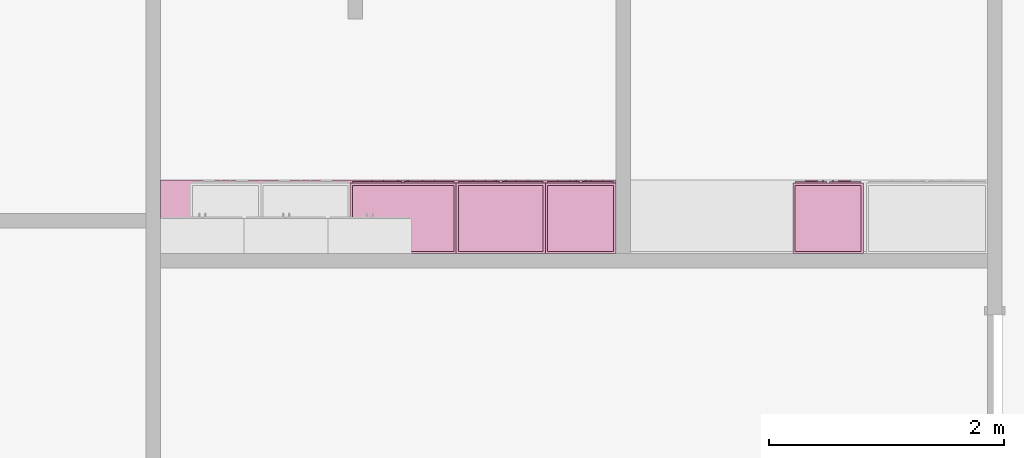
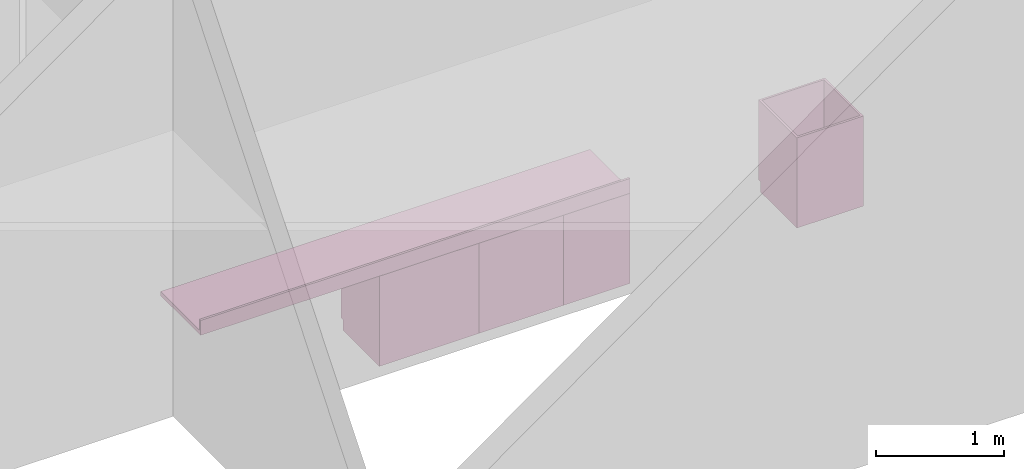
# One storey, part 40 of 47: 5 furnishings, 1 opening.
"""IFC2X3 building model written with IfcOpenShell, lengths in metres."""

from ifc_helpers import new_model, entity, si_unit, converted_unit, frame, frame_2d, origin, place, context, project, spatial, polyline, circle_curve, parameter, trimmed, segment, composite_curve, outline, extrude, face_set, surface_model, source, transform, mapped, type_object, type_shapes, element, save


model = new_model("IFC2X3")

# Units and contexts
model_context = context("Model", 3, precision=1e-09, world=origin())
plan_context = context("Plan", 3, precision=1e-09, world=origin())
ifc_project = project(units=[si_unit("LENGTHUNIT", "METRE"), si_unit("AREAUNIT", "SQUARE_METRE"), si_unit("VOLUMEUNIT", "CUBIC_METRE"), converted_unit("PLANEANGLEUNIT", "DEGREE", entity("IfcRatioMeasure", 0.01745329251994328), si_unit("PLANEANGLEUNIT", "RADIAN"), dimensions=[0, 0, 0, 0, 0, 0, 0]), si_unit("TIMEUNIT", "SECOND")], contexts=[model_context, plan_context])

# Site, building, storey, space
site_placement = place(None, origin())
site = spatial("IfcSite", under=ifc_project, at=site_placement, Name="Default", CompositionType="ELEMENT")
building_placement = place(site_placement, origin())
building = spatial("IfcBuilding", under=site, at=building_placement, CompositionType="ELEMENT")
storey_placement = place(building_placement, frame((0.0, 0.0, 4.570000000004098)))
storey = spatial("IfcBuildingStorey", under=building, at=storey_placement, Name="Second Floor", CompositionType="ELEMENT", Elevation=4.570000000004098)
space_1_placement = place(storey_placement, origin())
space_1 = spatial("IfcSpace", under=storey, at=space_1_placement, Name="2C10", CompositionType="ELEMENT", InteriorOrExteriorSpace="INTERNAL")

# Furnishing
furniture_type_1 = type_object("IfcFurnitureType", Name="600mm", AssemblyPlace="NOTDEFINED")
shared_shape_1 = source(origin(), model_context, "Body", "SurfaceModel", [
    surface_model("IfcFaceBasedSurfaceModel", [(0.5809499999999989, 0.0444500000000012, 0.86000000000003), (0.5809499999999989, 0.0444500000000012, 0.09999999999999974), (0.01905000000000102, 0.0444500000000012, 0.09999999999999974), (0.01905000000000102, 0.0444500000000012, 0.86000000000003), (0.5999999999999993, 0.02540000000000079, 0.8600000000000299), (0.0, 0.02540000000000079, 0.8600000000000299), (0.5999999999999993, 0.02540000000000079, 0.09999999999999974), (0.0, 0.02540000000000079, 0.0999999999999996), (0.01905000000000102, 0.6063499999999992, 0.86000000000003), (0.01905000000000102, 0.6063499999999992, 0.09999999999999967), (0.01905000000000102, 0.06040000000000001, 0.09999999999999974), (0.0, 0.6253999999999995, 0.8600000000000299), (0.0, 0.6254000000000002, 0.0), (0.0, 0.06040000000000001, 0.0), (0.0, 0.06040000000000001, 0.09999999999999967), (0.5809499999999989, 0.6063499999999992, 0.86000000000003), (0.5809499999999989, 0.6063499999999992, 0.09999999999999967), (0.5999999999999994, 0.6253999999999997, 0.8600000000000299), (0.5999999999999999, 0.6253999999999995, 0.0), (0.5809499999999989, 0.06040000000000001, 0.09999999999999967), (0.5999999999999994, 0.06040000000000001, 0.09999999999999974), (0.5999999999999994, 0.06040000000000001, 0.0), (0.2103250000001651, 0.0, 0.8155500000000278), (0.2103250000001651, 0.0, 0.8028500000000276), (0.1087250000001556, 0.0, 0.8028500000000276), (0.1087250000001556, 0.0, 0.8155500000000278), (0.4912750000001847, 0.0, 0.8155500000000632), (0.4912750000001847, 0.0, 0.8028500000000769), (0.3896750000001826, 0.0, 0.8028500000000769), (0.3896750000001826, 0.0, 0.8155500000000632), (0.2650750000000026, 0.0, 0.6822000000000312), (0.2650750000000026, 0.0, 0.5806000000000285), (0.2523750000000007, 0.0, 0.5806000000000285), (0.2523750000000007, 0.0, 0.6822000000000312), (0.3476249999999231, 0.0, 0.6822000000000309), (0.3476249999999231, 0.0, 0.5806000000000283), (0.3349249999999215, 0.0, 0.5806000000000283), (0.3349249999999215, 0.0, 0.6822000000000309), (0.2103250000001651, 0.0127000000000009, 0.8155500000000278), (0.2103250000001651, 0.0127000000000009, 0.8028500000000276), (0.1087250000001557, 0.01270000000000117, 0.8028500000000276), (0.1087250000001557, 0.01270000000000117, 0.8155500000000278), (0.4912750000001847, 0.01269999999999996, 0.8155500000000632), (0.4912750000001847, 0.01269999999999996, 0.8028500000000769), (0.3896750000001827, 0.01270000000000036, 0.8028500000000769), (0.3896750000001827, 0.01270000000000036, 0.8155500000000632), (0.2650750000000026, 0.01270000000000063, 0.6822000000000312), (0.2650750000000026, 0.01270000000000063, 0.5806000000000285), (0.2523750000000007, 0.01270000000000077, 0.5806000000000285), (0.2523750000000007, 0.01270000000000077, 0.6822000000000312), (0.3476249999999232, 0.0127000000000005, 0.6822000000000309), (0.3476249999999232, 0.0127000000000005, 0.5806000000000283), (0.3349249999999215, 0.0127000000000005, 0.5806000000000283), (0.3349249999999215, 0.0127000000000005, 0.6822000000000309), (0.2904749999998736, 0.01270000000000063, 0.8409500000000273), (0.2904749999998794, 0.01270000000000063, 0.7393500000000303), (0.01905000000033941, 0.01270000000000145, 0.7393500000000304), (0.01905000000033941, 0.01270000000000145, 0.8409500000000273), (0.5809500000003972, 0.01269999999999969, 0.8409500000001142), (0.5809500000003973, 0.01269999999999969, 0.7393500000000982), (0.3095249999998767, 0.0127000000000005, 0.7393500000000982), (0.309524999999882, 0.0127000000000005, 0.8409500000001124), (0.2904749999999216, 0.01270000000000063, 0.7203000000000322), (0.290474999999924, 0.01270000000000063, 0.1190499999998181), (0.01905000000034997, 0.01270000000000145, 0.1190499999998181), (0.01905000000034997, 0.01270000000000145, 0.7203000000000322), (0.5809500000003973, 0.01269999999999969, 0.7203000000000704), (0.5809500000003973, 0.01269999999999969, 0.1190499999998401), (0.3095249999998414, 0.0127000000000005, 0.1190499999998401), (0.3095249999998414, 0.0127000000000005, 0.7203000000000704), (0.2904749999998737, 0.02540000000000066, 0.8409500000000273), (0.2904749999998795, 0.02540000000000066, 0.7393500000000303), (0.01905000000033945, 0.02540000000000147, 0.7393500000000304), (0.01905000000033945, 0.02540000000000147, 0.8409500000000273), (0.5809500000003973, 0.02539999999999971, 0.8409500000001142), (0.5809500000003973, 0.02539999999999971, 0.7393500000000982), (0.3095249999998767, 0.02540000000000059, 0.7393500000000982), (0.309524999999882, 0.02540000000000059, 0.8409500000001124), (0.2904749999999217, 0.02540000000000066, 0.7203000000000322), (0.290474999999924, 0.02540000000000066, 0.1190499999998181), (0.01905000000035, 0.02540000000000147, 0.1190499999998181), (0.01905000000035, 0.02540000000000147, 0.7203000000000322), (0.5809500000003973, 0.02539999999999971, 0.7203000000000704), (0.5809500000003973, 0.02539999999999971, 0.1190499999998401), (0.3095249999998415, 0.02540000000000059, 0.1190499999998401), (0.3095249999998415, 0.02540000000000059, 0.7203000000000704), (0.580949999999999, 0.6063499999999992, 0.1190499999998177), (0.580949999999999, 0.04445000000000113, 0.1190499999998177), (0.01905000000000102, 0.04445000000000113, 0.1190499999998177), (0.01905000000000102, 0.6063499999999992, 0.1190499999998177), (0.580949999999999, 0.6063499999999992, 0.09999999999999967), (0.580949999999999, 0.04445000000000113, 0.09999999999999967), (0.01905000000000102, 0.04445000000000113, 0.09999999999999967), (0.01905000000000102, 0.6063499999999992, 0.09999999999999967)], [face_set([[[0, 1, 2, 3]], [[0, 4, 5, 3]], [[4, 6, 7, 5]], [[2, 1, 6, 7]], [[3, 8, 9, 10, 2]], [[5, 11, 8, 3]], [[7, 5, 11, 12, 13, 14]], [[2, 7, 14, 10]], [[8, 15, 16, 9]], [[11, 17, 15, 8]], [[12, 11, 17, 18]], [[1, 19, 16, 15, 0]], [[0, 15, 17, 4]], [[4, 6, 20, 21, 18, 17]], [[6, 1, 19, 20]], [[10, 9, 16, 19]], [[18, 21, 13, 12]], [[13, 14, 10, 19, 20, 21]]]), face_set([[[22, 23, 24, 25]], [[26, 27, 28, 29]], [[30, 31, 32, 33]], [[34, 35, 36, 37]], [[38, 39, 40, 41]], [[42, 43, 44, 45]], [[46, 47, 48, 49]], [[50, 51, 52, 53]], [[25, 41, 38, 22]], [[24, 40, 41, 25]], [[23, 24, 40, 39]], [[22, 23, 39, 38]], [[29, 45, 42, 26]], [[28, 44, 45, 29]], [[27, 28, 44, 43]], [[26, 27, 43, 42]], [[33, 49, 46, 30]], [[32, 48, 49, 33]], [[31, 32, 48, 47]], [[30, 31, 47, 46]], [[37, 53, 50, 34]], [[36, 52, 53, 37]], [[35, 36, 52, 51]], [[34, 35, 51, 50]]]), face_set([[[54, 55, 56, 57]], [[58, 59, 60, 61]], [[62, 63, 64, 65]], [[66, 67, 68, 69]], [[70, 71, 72, 73]], [[74, 75, 76, 77]], [[78, 79, 80, 81]], [[82, 83, 84, 85]], [[57, 73, 70, 54]], [[56, 57, 73, 72]], [[55, 56, 72, 71]], [[54, 55, 71, 70]], [[61, 77, 74, 58]], [[60, 76, 77, 61]], [[59, 60, 76, 75]], [[58, 59, 75, 74]], [[65, 81, 78, 62]], [[64, 65, 81, 80]], [[63, 64, 80, 79]], [[62, 63, 79, 78]], [[69, 85, 82, 66]], [[68, 84, 85, 69]], [[67, 68, 84, 83]], [[66, 67, 83, 82]]]), face_set([[[86, 87, 88, 89]], [[90, 91, 92, 93]], [[89, 86, 90, 93]], [[88, 89, 93, 92]], [[87, 91, 92, 88]], [[86, 87, 91, 90]]])]),
])
type_shapes(furniture_type_1, [shared_shape_1])
furnishing_1_placement = place(space_1_placement, frame((-34.5000000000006, 42.08383871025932, 0.0), z_axis=(0.0, 0.0, 1.0), x_axis=(-1.0, 0.0, 0.0)))
element("IfcFurnishingElement", 1, at=furnishing_1_placement, inside=space_1, type_object=furniture_type_1, Name="M_Base Cabinet-Double Door & 2 Drawer:600mm:600mm", ObjectType="600mm", context=model_context, shape_type="MappedRepresentation", body=[
    mapped(shared_shape_1, transform((0.0, 0.0, 0.0), scale=1.0)),
])

# Space
space_2_placement = place(storey_placement, origin())
space_2 = spatial("IfcSpace", under=storey, at=space_2_placement, Name="2C12", CompositionType="ELEMENT", InteriorOrExteriorSpace="INTERNAL")

# Furnishings
furnishing_2_placement = place(space_2_placement, frame((-36.6040000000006, 42.08383871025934, 0.0), z_axis=(0.0, 0.0, 1.0), x_axis=(-1.0, 0.0, 0.0)))
element("IfcFurnishingElement", 2, at=furnishing_2_placement, inside=space_2, type_object=furniture_type_1, Name="M_Base Cabinet-Double Door & 2 Drawer:600mm:600mm", ObjectType="600mm", context=model_context, shape_type="MappedRepresentation", body=[
    mapped(shared_shape_1, transform((0.0, 0.0, 0.0), scale=1.0)),
])
furniture_type_2 = type_object("IfcFurnitureType", Name="900mm", AssemblyPlace="NOTDEFINED")
shared_shape_2 = source(origin(), model_context, "Body", "SurfaceModel", [
    surface_model("IfcFaceBasedSurfaceModel", [(0.8809499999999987, 0.04445000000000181, 0.86000000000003), (0.8809499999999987, 0.04445000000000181, 0.09999999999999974), (0.01905000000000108, 0.04445000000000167, 0.09999999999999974), (0.01905000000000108, 0.04445000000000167, 0.86000000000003), (0.8999999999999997, 0.02540000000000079, 0.8600000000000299), (0.0, 0.02540000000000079, 0.8600000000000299), (0.8999999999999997, 0.02540000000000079, 0.09999999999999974), (0.0, 0.02540000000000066, 0.0999999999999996), (0.01905000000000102, 0.6063499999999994, 0.86000000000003), (0.01905000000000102, 0.6063499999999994, 0.09999999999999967), (0.01905000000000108, 0.06040000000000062, 0.09999999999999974), (0.0, 0.6254000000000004, 0.8600000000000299), (0.0, 0.6254000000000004, 0.0), (0.0, 0.06040000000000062, 0.0), (0.0, 0.06040000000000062, 0.09999999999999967), (0.8809499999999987, 0.6063499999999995, 0.86000000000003), (0.8809499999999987, 0.6063499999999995, 0.09999999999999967), (0.8999999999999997, 0.6254000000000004, 0.8600000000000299), (0.8999999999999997, 0.6254000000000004, 0.0), (0.8809499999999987, 0.06040000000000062, 0.09999999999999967), (0.8999999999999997, 0.06040000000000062, 0.09999999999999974), (0.8999999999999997, 0.06040000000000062, 0.0), (0.2853250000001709, 0.0, 0.8155500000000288), (0.2853250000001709, 0.0, 0.8028500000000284), (0.1837250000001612, 0.0, 0.8028500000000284), (0.1837250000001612, 0.0, 0.8155500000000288), (0.716275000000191, 0.0, 0.8155500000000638), (0.716275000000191, 0.0, 0.8028500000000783), (0.6146750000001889, 0.0, 0.8028500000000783), (0.6146750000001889, 0.0, 0.8155500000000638), (0.4150750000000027, 0.0, 0.6822000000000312), (0.4150750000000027, 0.0, 0.5806000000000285), (0.4023750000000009, 0.0, 0.5806000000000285), (0.4023750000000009, 0.0, 0.6822000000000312), (0.4976249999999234, 0.0, 0.6822000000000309), (0.4976249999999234, 0.0, 0.5806000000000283), (0.4849249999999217, 0.0, 0.5806000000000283), (0.4849249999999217, 0.0, 0.6822000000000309), (0.285325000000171, 0.01270000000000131, 0.8155500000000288), (0.285325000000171, 0.01270000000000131, 0.8028500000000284), (0.1837250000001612, 0.01270000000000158, 0.8028500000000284), (0.1837250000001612, 0.01270000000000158, 0.8155500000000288), (0.7162750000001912, 0.01269999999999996, 0.8155500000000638), (0.7162750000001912, 0.01269999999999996, 0.8028500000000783), (0.6146750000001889, 0.01270000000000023, 0.8028500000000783), (0.6146750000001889, 0.01270000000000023, 0.8155500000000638), (0.4150750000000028, 0.0127000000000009, 0.6822000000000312), (0.4150750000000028, 0.0127000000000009, 0.5806000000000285), (0.4023750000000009, 0.0127000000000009, 0.5806000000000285), (0.4023750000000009, 0.0127000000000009, 0.6822000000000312), (0.4976249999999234, 0.01270000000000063, 0.6822000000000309), (0.4976249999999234, 0.01270000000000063, 0.5806000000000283), (0.4849249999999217, 0.01270000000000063, 0.5806000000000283), (0.4849249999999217, 0.01270000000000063, 0.6822000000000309), (0.4404749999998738, 0.01270000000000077, 0.8409500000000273), (0.4404749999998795, 0.01270000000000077, 0.7393500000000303), (0.01905000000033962, 0.01270000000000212, 0.7393500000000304), (0.01905000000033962, 0.01270000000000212, 0.8409500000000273), (0.8809500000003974, 0.01269999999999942, 0.8409500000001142), (0.8809500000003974, 0.01269999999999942, 0.7393500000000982), (0.4595249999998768, 0.01270000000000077, 0.7393500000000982), (0.4595249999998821, 0.01270000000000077, 0.8409500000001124), (0.4404749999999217, 0.01270000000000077, 0.7203000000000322), (0.4404749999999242, 0.01270000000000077, 0.1190499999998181), (0.01905000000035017, 0.01270000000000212, 0.1190499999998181), (0.01905000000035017, 0.01270000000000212, 0.7203000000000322), (0.8809500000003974, 0.01269999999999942, 0.7203000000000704), (0.8809500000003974, 0.01269999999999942, 0.1190499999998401), (0.4595249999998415, 0.01270000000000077, 0.1190499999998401), (0.4595249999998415, 0.01270000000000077, 0.7203000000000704), (0.4404749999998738, 0.02540000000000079, 0.8409500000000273), (0.4404749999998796, 0.02540000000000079, 0.7393500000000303), (0.01905000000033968, 0.02540000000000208, 0.7393500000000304), (0.01905000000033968, 0.02540000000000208, 0.8409500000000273), (0.8809500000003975, 0.02539999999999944, 0.8409500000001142), (0.8809500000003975, 0.02539999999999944, 0.7393500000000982), (0.4595249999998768, 0.02540000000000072, 0.7393500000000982), (0.4595249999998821, 0.02540000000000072, 0.8409500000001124), (0.4404749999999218, 0.02540000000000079, 0.7203000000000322), (0.4404749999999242, 0.02540000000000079, 0.1190499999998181), (0.01905000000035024, 0.02540000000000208, 0.1190499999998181), (0.01905000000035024, 0.02540000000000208, 0.7203000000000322), (0.8809500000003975, 0.02539999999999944, 0.7203000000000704), (0.8809500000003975, 0.02539999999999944, 0.1190499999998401), (0.4595249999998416, 0.02540000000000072, 0.1190499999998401), (0.4595249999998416, 0.02540000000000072, 0.7203000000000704), (0.8809499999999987, 0.6063499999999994, 0.1190499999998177), (0.8809499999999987, 0.04445000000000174, 0.1190499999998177), (0.01905000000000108, 0.04445000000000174, 0.1190499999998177), (0.01905000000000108, 0.6063499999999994, 0.1190499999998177), (0.8809499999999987, 0.6063499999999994, 0.09999999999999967), (0.8809499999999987, 0.04445000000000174, 0.09999999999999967), (0.01905000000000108, 0.04445000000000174, 0.09999999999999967), (0.01905000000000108, 0.6063499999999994, 0.09999999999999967)], [face_set([[[0, 1, 2, 3]], [[0, 4, 5, 3]], [[4, 6, 7, 5]], [[2, 1, 6, 7]], [[3, 8, 9, 10, 2]], [[5, 11, 8, 3]], [[7, 5, 11, 12, 13, 14]], [[2, 7, 14, 10]], [[8, 15, 16, 9]], [[11, 17, 15, 8]], [[12, 11, 17, 18]], [[1, 19, 16, 15, 0]], [[0, 15, 17, 4]], [[4, 6, 20, 21, 18, 17]], [[6, 1, 19, 20]], [[10, 9, 16, 19]], [[18, 21, 13, 12]], [[13, 14, 10, 19, 20, 21]]]), face_set([[[22, 23, 24, 25]], [[26, 27, 28, 29]], [[30, 31, 32, 33]], [[34, 35, 36, 37]], [[38, 39, 40, 41]], [[42, 43, 44, 45]], [[46, 47, 48, 49]], [[50, 51, 52, 53]], [[25, 41, 38, 22]], [[24, 40, 41, 25]], [[23, 24, 40, 39]], [[22, 23, 39, 38]], [[29, 45, 42, 26]], [[28, 44, 45, 29]], [[27, 28, 44, 43]], [[26, 27, 43, 42]], [[33, 49, 46, 30]], [[32, 48, 49, 33]], [[31, 32, 48, 47]], [[30, 31, 47, 46]], [[37, 53, 50, 34]], [[36, 52, 53, 37]], [[35, 36, 52, 51]], [[34, 35, 51, 50]]]), face_set([[[54, 55, 56, 57]], [[58, 59, 60, 61]], [[62, 63, 64, 65]], [[66, 67, 68, 69]], [[70, 71, 72, 73]], [[74, 75, 76, 77]], [[78, 79, 80, 81]], [[82, 83, 84, 85]], [[57, 73, 70, 54]], [[56, 57, 73, 72]], [[55, 56, 72, 71]], [[54, 55, 71, 70]], [[61, 77, 74, 58]], [[60, 76, 77, 61]], [[59, 60, 76, 75]], [[58, 59, 75, 74]], [[65, 81, 78, 62]], [[64, 65, 81, 80]], [[63, 64, 80, 79]], [[62, 63, 79, 78]], [[69, 85, 82, 66]], [[68, 84, 85, 69]], [[67, 68, 84, 83]], [[66, 67, 83, 82]]]), face_set([[[86, 87, 88, 89]], [[90, 91, 92, 93]], [[89, 86, 90, 93]], [[88, 89, 93, 92]], [[87, 91, 92, 88]], [[86, 87, 91, 90]]])]),
])
type_shapes(furniture_type_2, [shared_shape_2])
furnishing_3_placement = place(space_2_placement, frame((-37.9640000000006, 42.08383871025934, 0.0), z_axis=(0.0, 0.0, 1.0), x_axis=(-1.0, 0.0, 0.0)))
element("IfcFurnishingElement", 3, at=furnishing_3_placement, inside=space_2, type_object=furniture_type_2, Name="M_Base Cabinet-Double Door & 2 Drawer:900mm:900mm", ObjectType="900mm", context=model_context, shape_type="MappedRepresentation", body=[
    mapped(shared_shape_2, transform((0.0, 0.0, 0.0), scale=1.0)),
])
furniture_type_3 = type_object("IfcFurnitureType", Name="760mm", AssemblyPlace="NOTDEFINED")
shared_shape_3 = source(origin(), model_context, "Body", "SurfaceModel", [
    surface_model("IfcFaceBasedSurfaceModel", [(0.7409499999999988, 0.04445000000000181, 0.86000000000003), (0.7409499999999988, 0.04445000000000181, 0.09999999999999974), (0.01905000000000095, 0.04445000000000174, 0.09999999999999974), (0.01905000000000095, 0.04445000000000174, 0.86000000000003), (0.7599999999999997, 0.02540000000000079, 0.8600000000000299), (0.0, 0.02540000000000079, 0.8600000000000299), (0.7599999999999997, 0.02540000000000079, 0.09999999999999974), (0.0, 0.02540000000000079, 0.0999999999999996), (0.01905000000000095, 0.6063499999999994, 0.86000000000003), (0.01905000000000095, 0.6063499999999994, 0.09999999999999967), (0.01905000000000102, 0.06040000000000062, 0.09999999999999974), (0.0, 0.6254000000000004, 0.8600000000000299), (0.0, 0.6254000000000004, 0.0), (0.0, 0.06040000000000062, 0.0), (0.0, 0.06040000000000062, 0.09999999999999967), (0.7409499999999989, 0.6063499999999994, 0.86000000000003), (0.7409499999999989, 0.6063499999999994, 0.09999999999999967), (0.7599999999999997, 0.6254000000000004, 0.8600000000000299), (0.7599999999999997, 0.6254000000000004, 0.0), (0.7409499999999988, 0.06040000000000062, 0.09999999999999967), (0.7599999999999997, 0.06040000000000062, 0.09999999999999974), (0.7599999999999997, 0.06040000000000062, 0.0), (0.2503250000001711, 0.0, 0.8155500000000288), (0.2503250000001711, 0.0, 0.8028500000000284), (0.1487250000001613, 0.0, 0.8028500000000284), (0.1487250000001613, 0.0, 0.8155500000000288), (0.6112750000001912, 0.0, 0.8155500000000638), (0.6112750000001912, 0.0, 0.8028500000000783), (0.509675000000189, 0.0, 0.8028500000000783), (0.509675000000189, 0.0, 0.8155500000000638), (0.3450750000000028, 0.0, 0.6822000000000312), (0.3450750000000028, 0.0, 0.5806000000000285), (0.3323750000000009, 0.0, 0.5806000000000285), (0.3323750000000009, 0.0, 0.6822000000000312), (0.4276249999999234, 0.0, 0.6822000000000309), (0.4276249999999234, 0.0, 0.5806000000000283), (0.4149249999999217, 0.0, 0.5806000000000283), (0.4149249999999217, 0.0, 0.6822000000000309), (0.2503250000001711, 0.01270000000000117, 0.8155500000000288), (0.2503250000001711, 0.01270000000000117, 0.8028500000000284), (0.1487250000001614, 0.01270000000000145, 0.8028500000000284), (0.1487250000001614, 0.01270000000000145, 0.8155500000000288), (0.6112750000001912, 0.01269999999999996, 0.8155500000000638), (0.6112750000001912, 0.01269999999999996, 0.8028500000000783), (0.5096750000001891, 0.01270000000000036, 0.8028500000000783), (0.5096750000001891, 0.01270000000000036, 0.8155500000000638), (0.3450750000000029, 0.0127000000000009, 0.6822000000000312), (0.3450750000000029, 0.0127000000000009, 0.5806000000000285), (0.3323750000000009, 0.0127000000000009, 0.5806000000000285), (0.3323750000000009, 0.0127000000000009, 0.6822000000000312), (0.4276249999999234, 0.01270000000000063, 0.6822000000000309), (0.4276249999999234, 0.01270000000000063, 0.5806000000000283), (0.4149249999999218, 0.01270000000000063, 0.5806000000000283), (0.4149249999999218, 0.01270000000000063, 0.6822000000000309), (0.3704749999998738, 0.01270000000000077, 0.8409500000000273), (0.3704749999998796, 0.01270000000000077, 0.7393500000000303), (0.01905000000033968, 0.01270000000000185, 0.7393500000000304), (0.01905000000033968, 0.01270000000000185, 0.8409500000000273), (0.7409500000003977, 0.01269999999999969, 0.8409500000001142), (0.7409500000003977, 0.01269999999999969, 0.7393500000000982), (0.3895249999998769, 0.01270000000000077, 0.7393500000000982), (0.3895249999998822, 0.01270000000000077, 0.8409500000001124), (0.3704749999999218, 0.01270000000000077, 0.7203000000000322), (0.3704749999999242, 0.01270000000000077, 0.1190499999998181), (0.01905000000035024, 0.01270000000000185, 0.1190499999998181), (0.01905000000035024, 0.01270000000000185, 0.7203000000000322), (0.7409500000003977, 0.01269999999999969, 0.7203000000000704), (0.7409500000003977, 0.01269999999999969, 0.1190499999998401), (0.3895249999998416, 0.01270000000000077, 0.1190499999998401), (0.3895249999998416, 0.01270000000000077, 0.7203000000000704), (0.3704749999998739, 0.02540000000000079, 0.8409500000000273), (0.3704749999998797, 0.02540000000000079, 0.7393500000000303), (0.01905000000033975, 0.02540000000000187, 0.7393500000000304), (0.01905000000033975, 0.02540000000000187, 0.8409500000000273), (0.7409500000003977, 0.02539999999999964, 0.8409500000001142), (0.7409500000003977, 0.02539999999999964, 0.7393500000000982), (0.3895249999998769, 0.02540000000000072, 0.7393500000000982), (0.3895249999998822, 0.02540000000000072, 0.8409500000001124), (0.3704749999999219, 0.02540000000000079, 0.7203000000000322), (0.3704749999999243, 0.02540000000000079, 0.1190499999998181), (0.01905000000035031, 0.02540000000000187, 0.1190499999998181), (0.01905000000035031, 0.02540000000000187, 0.7203000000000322), (0.7409500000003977, 0.02539999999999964, 0.7203000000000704), (0.7409500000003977, 0.02539999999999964, 0.1190499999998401), (0.3895249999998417, 0.02540000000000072, 0.1190499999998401), (0.3895249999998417, 0.02540000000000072, 0.7203000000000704), (0.7409499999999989, 0.6063499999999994, 0.1190499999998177), (0.7409499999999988, 0.04445000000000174, 0.1190499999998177), (0.01905000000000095, 0.04445000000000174, 0.1190499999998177), (0.01905000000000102, 0.6063499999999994, 0.1190499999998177), (0.7409499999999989, 0.6063499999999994, 0.09999999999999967), (0.7409499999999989, 0.04445000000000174, 0.09999999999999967), (0.01905000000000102, 0.04445000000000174, 0.09999999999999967), (0.01905000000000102, 0.6063499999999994, 0.09999999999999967)], [face_set([[[0, 1, 2, 3]], [[0, 4, 5, 3]], [[4, 6, 7, 5]], [[2, 1, 6, 7]], [[3, 8, 9, 10, 2]], [[5, 11, 8, 3]], [[7, 5, 11, 12, 13, 14]], [[2, 7, 14, 10]], [[8, 15, 16, 9]], [[11, 17, 15, 8]], [[12, 11, 17, 18]], [[1, 19, 16, 15, 0]], [[0, 15, 17, 4]], [[4, 6, 20, 21, 18, 17]], [[6, 1, 19, 20]], [[10, 9, 16, 19]], [[18, 21, 13, 12]], [[13, 14, 10, 19, 20, 21]]]), face_set([[[22, 23, 24, 25]], [[26, 27, 28, 29]], [[30, 31, 32, 33]], [[34, 35, 36, 37]], [[38, 39, 40, 41]], [[42, 43, 44, 45]], [[46, 47, 48, 49]], [[50, 51, 52, 53]], [[25, 41, 38, 22]], [[24, 40, 41, 25]], [[23, 24, 40, 39]], [[22, 23, 39, 38]], [[29, 45, 42, 26]], [[28, 44, 45, 29]], [[27, 28, 44, 43]], [[26, 27, 43, 42]], [[33, 49, 46, 30]], [[32, 48, 49, 33]], [[31, 32, 48, 47]], [[30, 31, 47, 46]], [[37, 53, 50, 34]], [[36, 52, 53, 37]], [[35, 36, 52, 51]], [[34, 35, 51, 50]]]), face_set([[[54, 55, 56, 57]], [[58, 59, 60, 61]], [[62, 63, 64, 65]], [[66, 67, 68, 69]], [[70, 71, 72, 73]], [[74, 75, 76, 77]], [[78, 79, 80, 81]], [[82, 83, 84, 85]], [[57, 73, 70, 54]], [[56, 57, 73, 72]], [[55, 56, 72, 71]], [[54, 55, 71, 70]], [[61, 77, 74, 58]], [[60, 76, 77, 61]], [[59, 60, 76, 75]], [[58, 59, 75, 74]], [[65, 81, 78, 62]], [[64, 65, 81, 80]], [[63, 64, 80, 79]], [[62, 63, 79, 78]], [[69, 85, 82, 66]], [[68, 84, 85, 69]], [[67, 68, 84, 83]], [[66, 67, 83, 82]]]), face_set([[[86, 87, 88, 89]], [[90, 91, 92, 93]], [[89, 86, 90, 93]], [[88, 89, 93, 92]], [[87, 91, 92, 88]], [[86, 87, 91, 90]]])]),
])
type_shapes(furniture_type_3, [shared_shape_3])
furnishing_4_placement = place(space_2_placement, frame((-37.2040000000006, 42.08383871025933, 0.0), z_axis=(0.0, 0.0, 1.0), x_axis=(-1.0, 0.0, 0.0)))
element("IfcFurnishingElement", 4, at=furnishing_4_placement, inside=space_2, type_object=furniture_type_3, Name="M_Base Cabinet-Double Door & 2 Drawer:760mm:760mm", ObjectType="760mm", context=model_context, shape_type="MappedRepresentation", body=[
    mapped(shared_shape_3, transform((0.0, 0.0, 0.0), scale=1.0)),
])

# Furnishing, opening
furniture_type_4 = type_object("IfcFurnitureType", Name="600mm Depth", AssemblyPlace="NOTDEFINED")
shared_shape_4 = source(origin(), model_context, "Body", "SweptSolid", [
    extrude(outline(polyline([(-0.0605333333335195, -0.2146833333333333), (0.08106666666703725, -0.2146833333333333), (0.08106666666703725, -0.1956333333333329), (-0.02053333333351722, -0.1956333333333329), (-0.02053333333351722, 0.4103166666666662), (-0.0605333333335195, 0.4103166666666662), (-0.0605333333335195, -0.2146833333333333)])), frame((-1.200462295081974, -0.2146833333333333, 0.920533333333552), z_axis=(1.0, 0.0, 0.0), x_axis=(0.0, 0.0, 1.0)), (0.0, 0.0, 1.0), 3.871999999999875),
])
type_shapes(furniture_type_4, [shared_shape_4])
furnishing_5_placement = place(space_2_placement, frame((-37.80446229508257, 41.4584387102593, 0.0), z_axis=(0.0, 0.0, 1.0), x_axis=(-1.0, 0.0, 0.0)))
furnishing_5 = element("IfcFurnishingElement", 5, at=furnishing_5_placement, inside=space_2, type_object=furniture_type_4, Name="M_Counter Top w Sink Hole:600mm Depth:600mm Depth", ObjectType="600mm Depth", context=model_context, shape_type="MappedRepresentation", body=[
    mapped(shared_shape_4, transform((0.0, 0.0, 0.0), scale=1.0)),
])
opening_placement = place(space_2_placement, frame((-37.80446229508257, 41.4584387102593, 0.0), z_axis=(0.0, 0.0, 1.0), x_axis=(-1.0, 0.0, 0.0)))
element("IfcOpeningElement", 6, at=opening_placement, cuts=furnishing_5, Name="M_Counter Top w Sink Hole:600mm Depth:600mm Depth:1", ObjectType="Opening", context=model_context, shape_type="SweptSolid", body=[
    extrude(outline(composite_curve([segment(polyline([(-0.255400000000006, -0.201700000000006), (0.2553999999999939, -0.2017000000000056)]), True, "CONTINUOUS"), segment(trimmed(circle_curve(frame_2d((0.2553999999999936, -0.150899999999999), x_axis=(1.0, 0.0)), 0.05080000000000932), [parameter(270.0000000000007)], [parameter(1.068666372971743e-12)], True, "PARAMETER"), True, "CONTINUOUS"), segment(polyline([(0.3062000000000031, -0.1508999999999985), (0.3062000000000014, 0.1509000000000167)]), True, "CONTINUOUS"), segment(trimmed(circle_curve(frame_2d((0.2554000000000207, 0.1509000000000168), x_axis=(1.0, 0.0)), 0.05079999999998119), [parameter(359.9999999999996)], [parameter(90.00000000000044)], True, "PARAMETER"), True, "CONTINUOUS"), segment(polyline([(0.2554000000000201, 0.2016999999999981), (-0.2554000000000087, 0.2016999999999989)]), True, "CONTINUOUS"), segment(trimmed(circle_curve(frame_2d((-0.2554000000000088, 0.1509000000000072), x_axis=(1.0, 0.0)), 0.0507999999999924), [parameter(90.00000000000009)], [parameter(179.9999999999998)], True, "PARAMETER"), True, "CONTINUOUS"), segment(polyline([(-0.3062000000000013, 0.150900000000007), (-0.3062000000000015, -0.1509000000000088)]), True, "CONTINUOUS"), segment(trimmed(circle_curve(frame_2d((-0.2554000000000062, -0.1509000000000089), x_axis=(1.0, 0.0)), 0.05079999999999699), [parameter(179.9999999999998)], [parameter(269.9999999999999)], True, "PARAMETER"), True, "CONTINUOUS")], self_intersect=False)), frame((0.1702027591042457, 0.28900000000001, -3.670000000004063), z_axis=(0.0, 0.0, -1.0), x_axis=(-1.0, 0.0, 0.0)), (0.0, 0.0, 1.0), 0.04000000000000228),
])

save(model, "model.ifc")
